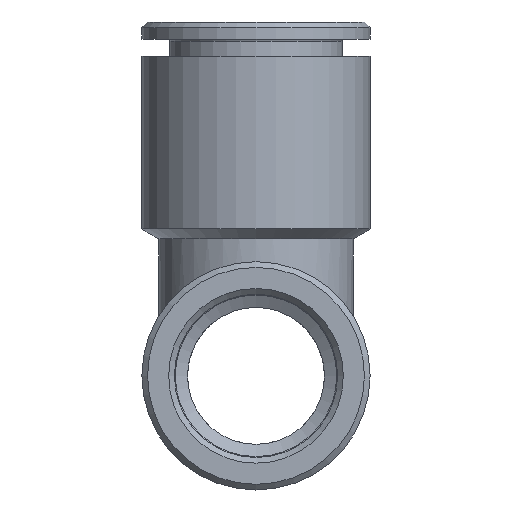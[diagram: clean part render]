
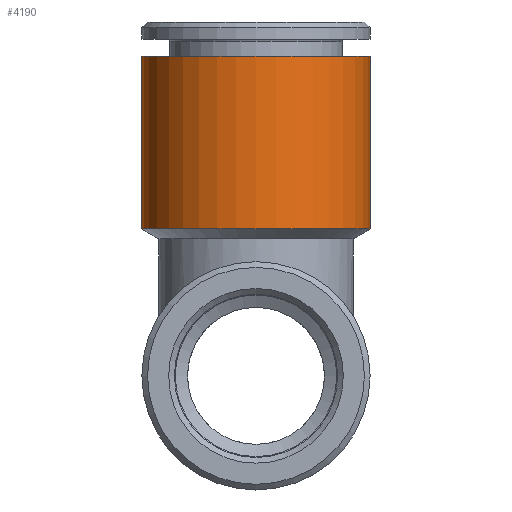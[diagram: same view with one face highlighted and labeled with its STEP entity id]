
A CAD part, left-side view. The second image highlights one B-rep face of the part: STEP entity #4190.
In plain terms, the highlighted cylindrical face has radius 10 mm (diameter 20 mm), a full revolution.
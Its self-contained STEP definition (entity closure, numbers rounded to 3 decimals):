
#4190=ADVANCED_FACE('', (#4200,#4210), #4220, .T.);
#11700=AXIS2_PLACEMENT_3D('Ax2Pl3d', #11710, #11720, #11730);
#12780=AXIS2_PLACEMENT_3D('Ax2Pl3d', #12790, #12800, #12810);
#12820=AXIS2_PLACEMENT_3D('Ax2Pl3d', #12830, #12840, #12850);
#11710=CARTESIAN_POINT('HicPkt', (33.921,7.175,
41.061));
#16340=CARTESIAN_POINT('', (23.921,7.175,41.061));
#12790=CARTESIAN_POINT('HicPkt', (33.921,7.175,
25.927));
#12830=CARTESIAN_POINT('HicPkt', (33.921,7.175,
25.927));
#16480=CARTESIAN_POINT('', (23.921,7.175,25.927));
#17340=CIRCLE('Circle', #11700, 10.);
#17460=CIRCLE('Circle', #12820, 10.);
#4220=CYLINDRICAL_SURFACE('Zyl', #12780, 10.);
#11720=DIRECTION('Axis', (0.,0.,-1.));
#11730=DIRECTION('RefDirection', (-1.,-0.,0.));
#12800=DIRECTION('Axis', (0.,0.,1.));
#12810=DIRECTION('RefDirection', (1.,0.,-0.));
#12840=DIRECTION('Axis', (0.,0.,-1.));
#12850=DIRECTION('RefDirection', (-1.,-0.,0.));
#22840=EDGE_CURVE('', #22850, #22850, #17340, .T.);
#23140=EDGE_CURVE('', #23150, #23150, #17460, .T.);
#27340=EDGE_LOOP('Edge_loop', (#27350));
#27360=EDGE_LOOP('Edge_loop', (#27370));
#4210=FACE_BOUND('', #27360, .T.);
#4200=FACE_OUTER_BOUND('Face_outer_bound', #27340, .T.);
#27350=ORIENTED_EDGE('', *, *, #22840, .T.);
#27370=ORIENTED_EDGE('', *, *, #23140, .F.);
#22850=VERTEX_POINT('', #16340);
#23150=VERTEX_POINT('', #16480);
